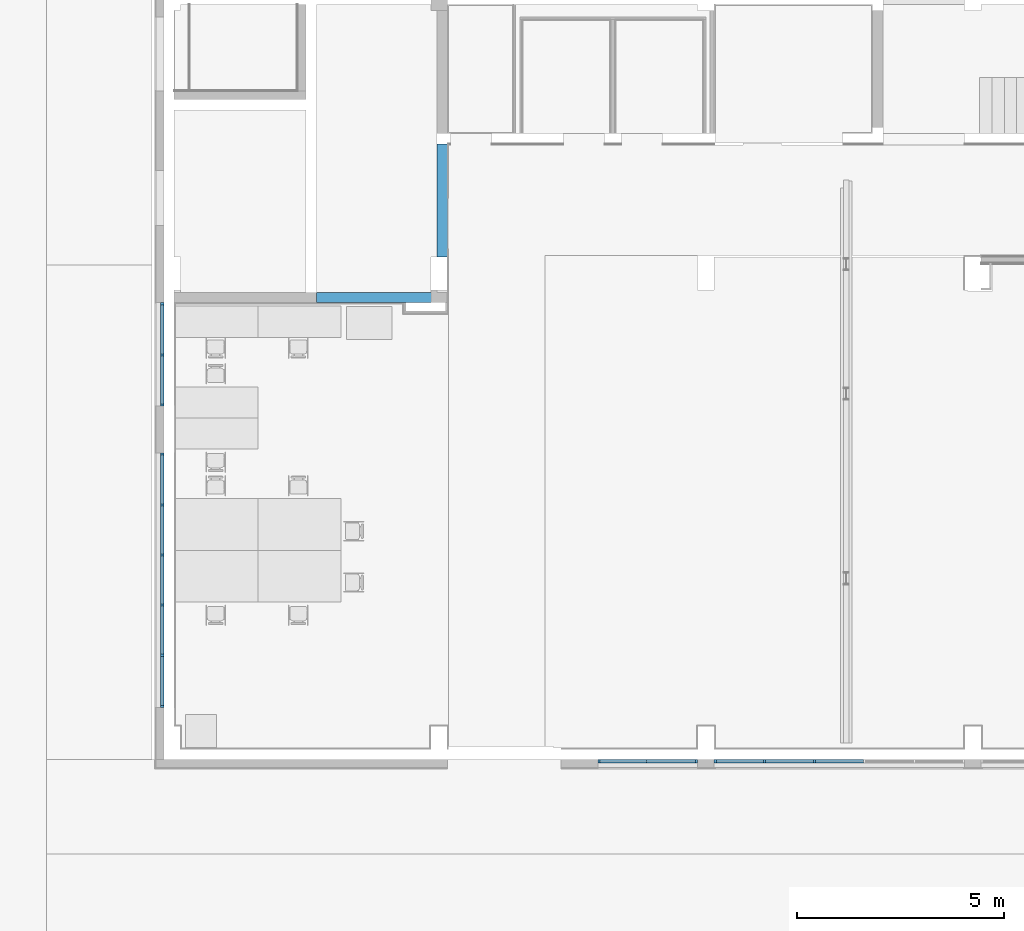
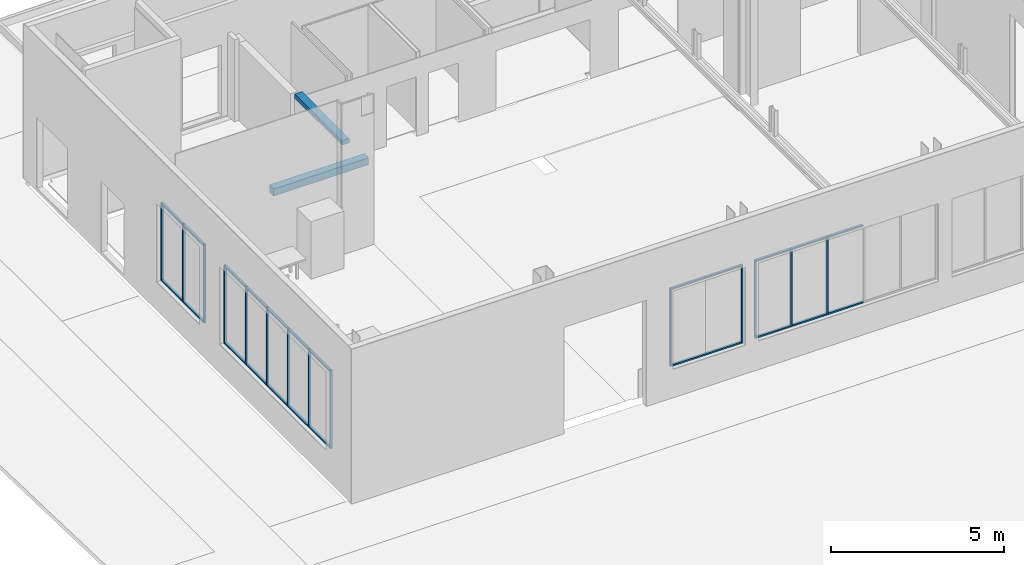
# One storey, part 2 of 27: 38 members, 2 beams, 4 elements without a shape of their own.
"""IFC2X3 building model written with IfcOpenShell, lengths in centimetres."""

from ifc_helpers import new_model, entity, si_unit, converted_unit, derived_unit, direction, frame, frame_2d, origin, origin_2d_with_axis, place, context, subcontext, project, spatial, rectangle, extrude, source, transform, mapped, material, type_object, type_shapes, element, aggregate, save


model = new_model("IFC2X3")

# Units and contexts
model_context = context("Model", 3, precision=0.001, world=origin(), true_north=direction((6.12303176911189e-17, 1.0)))
body_context = subcontext(model_context, "Body", "Model", "MODEL_VIEW")
ifc_project = project(units=[si_unit("LENGTHUNIT", "METRE", prefix="CENTI"), si_unit("AREAUNIT", "SQUARE_METRE"), si_unit("VOLUMEUNIT", "CUBIC_METRE"), converted_unit("PLANEANGLEUNIT", "DEGREE", entity("IfcRatioMeasure", 0.0174532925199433), si_unit("PLANEANGLEUNIT", "RADIAN"), dimensions=[0, 0, 0, 0, 0, 0, 0]), si_unit("MASSUNIT", "GRAM", prefix="KILO"), derived_unit("MASSDENSITYUNIT", [(si_unit("MASSUNIT", "GRAM", prefix="KILO"), 1), (si_unit("LENGTHUNIT", "METRE"), -3)]), derived_unit("MOMENTOFINERTIAUNIT", [(si_unit("LENGTHUNIT", "METRE"), 4)]), si_unit("TIMEUNIT", "SECOND"), si_unit("FREQUENCYUNIT", "HERTZ"), si_unit("THERMODYNAMICTEMPERATUREUNIT", "DEGREE_CELSIUS"), derived_unit("THERMALTRANSMITTANCEUNIT", [(si_unit("MASSUNIT", "GRAM", prefix="KILO"), 1), (si_unit("THERMODYNAMICTEMPERATUREUNIT", "KELVIN"), -1), (si_unit("TIMEUNIT", "SECOND"), -3)]), derived_unit("VOLUMETRICFLOWRATEUNIT", [(si_unit("LENGTHUNIT", "METRE"), 3), (si_unit("TIMEUNIT", "SECOND"), -1)]), si_unit("ELECTRICCURRENTUNIT", "AMPERE"), si_unit("ELECTRICVOLTAGEUNIT", "VOLT"), si_unit("POWERUNIT", "WATT"), si_unit("FORCEUNIT", "NEWTON", prefix="KILO"), si_unit("ILLUMINANCEUNIT", "LUX"), si_unit("LUMINOUSFLUXUNIT", "LUMEN"), si_unit("LUMINOUSINTENSITYUNIT", "CANDELA"), derived_unit("USERDEFINED", [(si_unit("MASSUNIT", "GRAM", prefix="KILO"), -1), (si_unit("LENGTHUNIT", "METRE"), -2), (si_unit("TIMEUNIT", "SECOND"), 3), (si_unit("LUMINOUSFLUXUNIT", "LUMEN"), 1)]), derived_unit("LINEARVELOCITYUNIT", [(si_unit("LENGTHUNIT", "METRE"), 1), (si_unit("TIMEUNIT", "SECOND"), -1)]), si_unit("PRESSUREUNIT", "PASCAL"), derived_unit("USERDEFINED", [(si_unit("LENGTHUNIT", "METRE"), -2), (si_unit("MASSUNIT", "GRAM", prefix="KILO"), 1), (si_unit("TIMEUNIT", "SECOND"), -2)]), derived_unit("LINEARFORCEUNIT", [(si_unit("MASSUNIT", "GRAM", prefix="KILO"), 1), (si_unit("LENGTHUNIT", "METRE"), 1), (si_unit("TIMEUNIT", "SECOND"), -2), (si_unit("LENGTHUNIT", "METRE"), -1)]), derived_unit("PLANARFORCEUNIT", [(si_unit("MASSUNIT", "GRAM", prefix="KILO"), 1), (si_unit("LENGTHUNIT", "METRE"), 1), (si_unit("TIMEUNIT", "SECOND"), -2), (si_unit("LENGTHUNIT", "METRE"), -2)])], contexts=[model_context])

# Site, building, storey
site_placement = place(None, origin())
site = spatial("IfcSite", under=ifc_project, at=site_placement, Name="Default", CompositionType="ELEMENT")
building_placement = place(site_placement, origin())
building = spatial("IfcBuilding", under=site, at=building_placement, CompositionType="ELEMENT")
storey_placement = place(building_placement, origin())
storey = spatial("IfcBuildingStorey", under=building, at=storey_placement, Name="Poziom 0 A +/-0,00", CompositionType="ELEMENT", Elevation=3.38570427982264e-11)

# Beams
ifc_material_1 = material(Name="_Beton C30/37")
beam_type = type_object("IfcBeamType", Name="Beton-belka prostokątna:wieniec 25x25", PredefinedType="BEAM", material=ifc_material_1)
beam_1_placement = place(storey_placement, frame((-2578.26511650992, 1371.62745234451, 265.0)))
element("IfcBeam", 1, at=beam_1_placement, inside=storey, type_object=beam_type, material=ifc_material_1, Name="Beton-belka prostokątna:wieniec 25x25", ObjectType="Beton-belka prostokątna:wieniec 25x25", context=body_context, shape_type="SweptSolid", body=[
    extrude(rectangle(XDim=25.0, YDim=25.0000000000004, at=frame_2d((2.75335310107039e-14, 0.0), x_axis=(1.0, 0.0))), frame((12.4999999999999, 0.0, 12.4999999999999), z_axis=(1.0, 0.0, 0.0), x_axis=(0.0, 0.0, -1.0)), (0.0, 0.0, 1.0), 316.500009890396),
])
beam_2_placement = place(storey_placement, frame((-2261.76511967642, 1470.12745207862, 265.0), z_axis=(0.0, 0.0, 1.0), x_axis=(0.0, 1.0, 0.0)))
element("IfcBeam", 2, at=beam_2_placement, inside=storey, type_object=beam_type, material=ifc_material_1, Name="Beton-belka prostokątna:wieniec 25x25", ObjectType="Beton-belka prostokątna:wieniec 25x25", context=body_context, shape_type="SweptSolid", body=[
    extrude(rectangle(XDim=15.0000000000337, YDim=25.0000000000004, at=frame_2d((-2.70894418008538e-14, 4.33431068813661e-13), x_axis=(1.0, 0.0))), frame((0.0, 0.0, 17.4999999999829), z_axis=(1.0, 0.0, 0.0), x_axis=(0.0, 0.0, -1.0)), (0.0, 0.0, 1.0), 272.999999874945),
])

# Curtain wall, members
curtain_wall_type = type_object("IfcCurtainWallType", PredefinedType="NOTDEFINED")
curtain_wall_1_placement = place(storey_placement, origin())
curtain_wall_1 = element("IfcCurtainWall", 3, at=curtain_wall_1_placement, inside=storey, type_object=curtain_wall_type)
ifc_material_2 = material(Name="Aluminium")
member_type_1 = type_object("IfcMemberType", Name="Prostokątny szpros:50 x 80mm", PredefinedType="MULLION", material=ifc_material_2)
shared_shape_1 = source(origin(), body_context, "Body", "SweptSolid", [
    extrude(rectangle(XDim=8.0, YDim=5.0, at=origin_2d_with_axis()), frame((-2.5, 0.0, -113.500173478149), z_axis=(0.0, 0.0, 1.0), x_axis=(0.0, -1.0, 0.0)), (0.0, 0.0, 1.0), 113.500173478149),
])
type_shapes(member_type_1, [shared_shape_1])
member_1_placement = place(curtain_wall_1_placement, frame((-1485.76267940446, 251.127499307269, 375.0), z_axis=(1.0, 0.0, 0.0), x_axis=(0.0, 0.0, 1.0)))
member_1 = element("IfcMember", 4, at=member_1_placement, type_object=member_type_1, Name="Prostokątny szpros:50 x 80mm", ObjectType="Prostokątny szpros:50 x 80mm", context=body_context, shape_type="MappedRepresentation", body=[
    mapped(shared_shape_1, transform((0.0, 0.0, 0.0), scale=1.0)),
])
member_type_2 = type_object("IfcMemberType", Name="Prostokątny szpros:50 x 80mm", PredefinedType="MULLION", material=ifc_material_2)
shared_shape_2 = source(origin(), body_context, "Body", "SweptSolid", [
    extrude(rectangle(XDim=8.0, YDim=5.0, at=origin_2d_with_axis()), frame((-2.5, 0.0, -113.500173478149), z_axis=(0.0, 0.0, 1.0), x_axis=(0.0, -1.0, 0.0)), (0.0, 0.0, 1.0), 113.500173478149),
])
type_shapes(member_type_2, [shared_shape_2])
member_2_placement = place(curtain_wall_1_placement, frame((-1599.26498890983, 251.127499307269, 100.0), z_axis=(-1.0, 0.0, 0.0), x_axis=(0.0, 0.0, -1.0)))
member_2 = element("IfcMember", 5, at=member_2_placement, type_object=member_type_2, Name="Prostokątny szpros:50 x 80mm", ObjectType="Prostokątny szpros:50 x 80mm", context=body_context, shape_type="MappedRepresentation", body=[
    mapped(shared_shape_2, transform((0.0, 0.0, 0.0), scale=1.0)),
])

# Curtain wall, member
curtain_wall_2_placement = place(storey_placement, origin())
curtain_wall_2 = element("IfcCurtainWall", 6, at=curtain_wall_2_placement, inside=storey, type_object=curtain_wall_type)
member_type_3 = type_object("IfcMemberType", Name="Prostokątny szpros:50 x 80mm", PredefinedType="MULLION", material=ifc_material_2)
shared_shape_3 = source(origin(), body_context, "Body", "SweptSolid", [
    extrude(rectangle(XDim=8.0, YDim=5.0, at=origin_2d_with_axis()), frame((-2.5, 0.0, -275.0), z_axis=(0.0, 0.0, 1.0), x_axis=(0.0, -1.0, 0.0)), (0.0, 0.0, 1.0), 274.999999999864),
])
type_shapes(member_type_3, [shared_shape_3])
member_3_placement = place(curtain_wall_2_placement, frame((-2938.26510381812, 996.127450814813, 100.0), z_axis=(0.0, 0.0, -1.0), x_axis=(0.0, 1.0, 0.0)))
member_3 = element("IfcMember", 7, at=member_3_placement, type_object=member_type_3, Name="Prostokątny szpros:50 x 80mm", ObjectType="Prostokątny szpros:50 x 80mm", context=body_context, shape_type="MappedRepresentation", body=[
    mapped(shared_shape_3, transform((0.0, 0.0, 0.0), scale=1.0)),
])

curtain_wall_3_placement = place(storey_placement, origin())
curtain_wall_3 = element("IfcCurtainWall", 8, at=curtain_wall_3_placement, inside=storey, type_object=curtain_wall_type)
member_4_placement = place(curtain_wall_3_placement, frame((-1644.26510655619, 251.127499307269, 100.0), z_axis=(0.0, 0.0, -1.0), x_axis=(1.0, 0.0, 0.0)))
member_4 = element("IfcMember", 9, at=member_4_placement, type_object=member_type_3, Name="Prostokątny szpros:50 x 80mm", ObjectType="Prostokątny szpros:50 x 80mm", context=body_context, shape_type="MappedRepresentation", body=[
    mapped(shared_shape_3, transform((0.0, 0.0, 0.0), scale=1.0)),
])

curtain_wall_4_placement = place(storey_placement, origin())
curtain_wall_4 = element("IfcCurtainWall", 10, at=curtain_wall_4_placement, inside=storey, type_object=curtain_wall_type)
member_5_placement = place(curtain_wall_4_placement, frame((-2938.26510381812, 1359.12745234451, 100.0), z_axis=(0.0, 0.0, -1.0), x_axis=(0.0, 1.0, 0.0)))
member_5 = element("IfcMember", 11, at=member_5_placement, type_object=member_type_3, Name="Prostokątny szpros:50 x 80mm", ObjectType="Prostokątny szpros:50 x 80mm", context=body_context, shape_type="MappedRepresentation", body=[
    mapped(shared_shape_3, transform((0.0, 0.0, 0.0), scale=1.0)),
])

# Member
member_type_4 = type_object("IfcMemberType", Name="Prostokątny szpros:50 x 80mm", PredefinedType="MULLION", material=ifc_material_2)
shared_shape_4 = source(origin(), body_context, "Body", "SweptSolid", [
    extrude(rectangle(XDim=8.0, YDim=5.0, at=origin_2d_with_axis()), frame((-2.5, 0.0, -275.0), z_axis=(0.0, 0.0, 1.0), x_axis=(0.0, -1.0, 0.0)), (0.0, 0.0, 1.0), 274.999999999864),
])
type_shapes(member_type_4, [shared_shape_4])
member_6_placement = place(curtain_wall_1_placement, frame((-1604.26498890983, 251.127499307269, 375.0), z_axis=(0.0, 0.0, 1.0), x_axis=(-1.0, 0.0, 0.0)))
member_6 = element("IfcMember", 12, at=member_6_placement, type_object=member_type_4, Name="Prostokątny szpros:50 x 80mm", ObjectType="Prostokątny szpros:50 x 80mm", context=body_context, shape_type="MappedRepresentation", body=[
    mapped(shared_shape_4, transform((0.0, 0.0, 0.0), scale=1.0)),
])

member_7_placement = place(curtain_wall_2_placement, frame((-2938.26510381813, 381.127452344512, 375.0), z_axis=(0.0, 0.0, 1.0), x_axis=(0.0, -1.0, 0.0)))
member_7 = element("IfcMember", 13, at=member_7_placement, type_object=member_type_4, Name="Prostokątny szpros:50 x 80mm", ObjectType="Prostokątny szpros:50 x 80mm", context=body_context, shape_type="MappedRepresentation", body=[
    mapped(shared_shape_4, transform((0.0, 0.0, 0.0), scale=1.0)),
])

member_8_placement = place(curtain_wall_3_placement, frame((-1885.7625781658, 251.12749930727, 375.0), z_axis=(0.0, 0.0, 1.0), x_axis=(-1.0, 0.0, 0.0)))
member_8 = element("IfcMember", 14, at=member_8_placement, type_object=member_type_4, Name="Prostokątny szpros:50 x 80mm", ObjectType="Prostokątny szpros:50 x 80mm", context=body_context, shape_type="MappedRepresentation", body=[
    mapped(shared_shape_4, transform((0.0, 0.0, 0.0), scale=1.0)),
])

member_9_placement = place(curtain_wall_4_placement, frame((-2938.26510381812, 1109.62747120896, 375.0), z_axis=(0.0, 0.0, 1.0), x_axis=(0.0, -1.0, 0.0)))
member_9 = element("IfcMember", 15, at=member_9_placement, type_object=member_type_4, Name="Prostokątny szpros:50 x 80mm", ObjectType="Prostokątny szpros:50 x 80mm", context=body_context, shape_type="MappedRepresentation", body=[
    mapped(shared_shape_4, transform((0.0, 0.0, 0.0), scale=1.0)),
])

member_type_5 = type_object("IfcMemberType", Name="Prostokątny szpros:50 x 80mm", PredefinedType="MULLION", material=ifc_material_2)
shared_shape_5 = source(origin(), body_context, "Body", "SweptSolid", [
    extrude(rectangle(XDim=8.0, YDim=5.0, at=origin_2d_with_axis()), frame((-2.5, 0.0, -116.002333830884), z_axis=(0.0, 0.0, 1.0), x_axis=(0.0, -1.0, 0.0)), (0.0, 0.0, 1.0), 116.002333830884),
])
type_shapes(member_type_5, [shared_shape_5])
member_10_placement = place(curtain_wall_1_placement, frame((-1480.76267940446, 251.127499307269, 100.0), z_axis=(-1.0, 0.0, 0.0), x_axis=(0.0, 0.0, -1.0)))
member_10 = element("IfcMember", 16, at=member_10_placement, type_object=member_type_5, Name="Prostokątny szpros:50 x 80mm", ObjectType="Prostokątny szpros:50 x 80mm", context=body_context, shape_type="MappedRepresentation", body=[
    mapped(shared_shape_5, transform((0.0, 0.0, 0.0), scale=1.0)),
])

member_11_placement = place(curtain_wall_1_placement, frame((-1359.76267937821, 251.127499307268, 100.0), z_axis=(-1.0, 0.0, 0.0), x_axis=(0.0, 0.0, -1.0)))
member_11 = element("IfcMember", 17, at=member_11_placement, type_object=member_type_5, Name="Prostokątny szpros:50 x 80mm", ObjectType="Prostokątny szpros:50 x 80mm", context=body_context, shape_type="MappedRepresentation", body=[
    mapped(shared_shape_5, transform((0.0, 0.0, 0.0), scale=1.0)),
])

member_12_placement = place(curtain_wall_2_placement, frame((-2938.26510381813, 509.627625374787, 100.0), z_axis=(0.0, -1.0, 0.0), x_axis=(0.0, 0.0, -1.0)))
member_12 = element("IfcMember", 18, at=member_12_placement, type_object=member_type_5, Name="Prostokątny szpros:50 x 80mm", ObjectType="Prostokątny szpros:50 x 80mm", context=body_context, shape_type="MappedRepresentation", body=[
    mapped(shared_shape_5, transform((0.0, 0.0, 0.0), scale=1.0)),
])

member_13_placement = place(curtain_wall_2_placement, frame((-2938.26510381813, 630.627625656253, 100.0), z_axis=(0.0, -1.0, 0.0), x_axis=(0.0, 0.0, -1.0)))
member_13 = element("IfcMember", 19, at=member_13_placement, type_object=member_type_5, Name="Prostokątny szpros:50 x 80mm", ObjectType="Prostokątny szpros:50 x 80mm", context=body_context, shape_type="MappedRepresentation", body=[
    mapped(shared_shape_5, transform((0.0, 0.0, 0.0), scale=1.0)),
])

member_14_placement = place(curtain_wall_2_placement, frame((-2938.26510381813, 751.627625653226, 100.0), z_axis=(0.0, -1.0, 0.0), x_axis=(0.0, 0.0, -1.0)))
member_14 = element("IfcMember", 20, at=member_14_placement, type_object=member_type_5, Name="Prostokątny szpros:50 x 80mm", ObjectType="Prostokątny szpros:50 x 80mm", context=body_context, shape_type="MappedRepresentation", body=[
    mapped(shared_shape_5, transform((0.0, 0.0, 0.0), scale=1.0)),
])

member_15_placement = place(curtain_wall_4_placement, frame((-2938.26510381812, 1114.62747120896, 100.0), z_axis=(0.0, -1.0, 0.0), x_axis=(0.0, 0.0, -1.0)))
member_15 = element("IfcMember", 21, at=member_15_placement, type_object=member_type_5, Name="Prostokątny szpros:50 x 80mm", ObjectType="Prostokątny szpros:50 x 80mm", context=body_context, shape_type="MappedRepresentation", body=[
    mapped(shared_shape_5, transform((0.0, 0.0, 0.0), scale=1.0)),
])

member_type_6 = type_object("IfcMemberType", Name="Prostokątny szpros:50 x 80mm", PredefinedType="MULLION", material=ifc_material_2)
shared_shape_6 = source(origin(), body_context, "Body", "SweptSolid", [
    extrude(rectangle(XDim=8.0, YDim=5.0, at=origin_2d_with_axis()), frame((0.0, 0.0, -275.0), z_axis=(0.0, 0.0, 1.0), x_axis=(0.0, -1.0, 0.0)), (0.0, 0.0, 1.0), 274.999999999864),
])
type_shapes(member_type_6, [shared_shape_6])
member_16_placement = place(curtain_wall_1_placement, frame((-1483.26267940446, 251.127499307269, 100.0), z_axis=(0.0, 0.0, -1.0), x_axis=(1.0, 0.0, 0.0)))
member_16 = element("IfcMember", 22, at=member_16_placement, type_object=member_type_6, Name="Prostokątny szpros:50 x 80mm", ObjectType="Prostokątny szpros:50 x 80mm", context=body_context, shape_type="MappedRepresentation", body=[
    mapped(shared_shape_6, transform((0.0, 0.0, 0.0), scale=1.0)),
])

member_17_placement = place(curtain_wall_1_placement, frame((-1362.26267937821, 251.127499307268, 100.0), z_axis=(0.0, 0.0, -1.0), x_axis=(1.0, 0.0, 0.0)))
member_17 = element("IfcMember", 23, at=member_17_placement, type_object=member_type_6, Name="Prostokątny szpros:50 x 80mm", ObjectType="Prostokątny szpros:50 x 80mm", context=body_context, shape_type="MappedRepresentation", body=[
    mapped(shared_shape_6, transform((0.0, 0.0, 0.0), scale=1.0)),
])

member_18_placement = place(curtain_wall_2_placement, frame((-2938.26510381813, 507.127625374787, 100.0), z_axis=(0.0, 0.0, -1.0), x_axis=(0.0, 1.0, 0.0)))
member_18 = element("IfcMember", 24, at=member_18_placement, type_object=member_type_6, Name="Prostokątny szpros:50 x 80mm", ObjectType="Prostokątny szpros:50 x 80mm", context=body_context, shape_type="MappedRepresentation", body=[
    mapped(shared_shape_6, transform((0.0, 0.0, 0.0), scale=1.0)),
])

member_19_placement = place(curtain_wall_2_placement, frame((-2938.26510381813, 628.127625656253, 100.0), z_axis=(0.0, 0.0, -1.0), x_axis=(0.0, 1.0, 0.0)))
member_19 = element("IfcMember", 25, at=member_19_placement, type_object=member_type_6, Name="Prostokątny szpros:50 x 80mm", ObjectType="Prostokątny szpros:50 x 80mm", context=body_context, shape_type="MappedRepresentation", body=[
    mapped(shared_shape_6, transform((0.0, 0.0, 0.0), scale=1.0)),
])

member_20_placement = place(curtain_wall_2_placement, frame((-2938.26510381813, 749.127625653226, 100.0), z_axis=(0.0, 0.0, -1.0), x_axis=(0.0, 1.0, 0.0)))
member_20 = element("IfcMember", 26, at=member_20_placement, type_object=member_type_6, Name="Prostokątny szpros:50 x 80mm", ObjectType="Prostokątny szpros:50 x 80mm", context=body_context, shape_type="MappedRepresentation", body=[
    mapped(shared_shape_6, transform((0.0, 0.0, 0.0), scale=1.0)),
])

member_21_placement = place(curtain_wall_2_placement, frame((-2938.26510381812, 870.127625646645, 100.0), z_axis=(0.0, 0.0, -1.0), x_axis=(0.0, 1.0, 0.0)))
member_21 = element("IfcMember", 27, at=member_21_placement, type_object=member_type_6, Name="Prostokątny szpros:50 x 80mm", ObjectType="Prostokątny szpros:50 x 80mm", context=body_context, shape_type="MappedRepresentation", body=[
    mapped(shared_shape_6, transform((0.0, 0.0, 0.0), scale=1.0)),
])

member_22_placement = place(curtain_wall_4_placement, frame((-2938.26510381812, 1233.12762565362, 100.0), z_axis=(0.0, 0.0, -1.0), x_axis=(0.0, 1.0, 0.0)))
member_22 = element("IfcMember", 28, at=member_22_placement, type_object=member_type_6, Name="Prostokątny szpros:50 x 80mm", ObjectType="Prostokątny szpros:50 x 80mm", context=body_context, shape_type="MappedRepresentation", body=[
    mapped(shared_shape_6, transform((0.0, 0.0, 0.0), scale=1.0)),
])

member_type_7 = type_object("IfcMemberType", Name="Prostokątny szpros:50 x 80mm", PredefinedType="MULLION", material=ifc_material_2)
shared_shape_7 = source(origin(), body_context, "Body", "SweptSolid", [
    extrude(rectangle(XDim=8.0, YDim=5.0, at=origin_2d_with_axis()), frame((-2.5, 0.0, -116.002333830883), z_axis=(0.0, 0.0, 1.0), x_axis=(0.0, -1.0, 0.0)), (0.0, 0.0, 1.0), 116.002333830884),
])
type_shapes(member_type_7, [shared_shape_7])
member_23_placement = place(curtain_wall_1_placement, frame((-1364.76267937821, 251.127499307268, 375.0), z_axis=(1.0, 0.0, 0.0), x_axis=(0.0, 0.0, 1.0)))
member_23 = element("IfcMember", 29, at=member_23_placement, type_object=member_type_7, Name="Prostokątny szpros:50 x 80mm", ObjectType="Prostokątny szpros:50 x 80mm", context=body_context, shape_type="MappedRepresentation", body=[
    mapped(shared_shape_7, transform((0.0, 0.0, 0.0), scale=1.0)),
])

member_24_placement = place(curtain_wall_1_placement, frame((-1243.76267511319, 251.127499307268, 375.0), z_axis=(1.0, 0.0, 0.0), x_axis=(0.0, 0.0, 1.0)))
member_24 = element("IfcMember", 30, at=member_24_placement, type_object=member_type_7, Name="Prostokątny szpros:50 x 80mm", ObjectType="Prostokątny szpros:50 x 80mm", context=body_context, shape_type="MappedRepresentation", body=[
    mapped(shared_shape_7, transform((0.0, 0.0, 0.0), scale=1.0)),
])

aggregate(curtain_wall_1, [member_2, member_6, member_1, member_10, member_16, member_23, member_11, member_17, member_24])

member_25_placement = place(curtain_wall_2_placement, frame((-2938.26510381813, 625.627625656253, 375.0), z_axis=(0.0, 1.0, 0.0), x_axis=(0.0, 0.0, 1.0)))
member_25 = element("IfcMember", 31, at=member_25_placement, type_object=member_type_7, Name="Prostokątny szpros:50 x 80mm", ObjectType="Prostokątny szpros:50 x 80mm", context=body_context, shape_type="MappedRepresentation", body=[
    mapped(shared_shape_7, transform((0.0, 0.0, 0.0), scale=1.0)),
])

member_26_placement = place(curtain_wall_2_placement, frame((-2938.26510381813, 746.627625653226, 375.0), z_axis=(0.0, 1.0, 0.0), x_axis=(0.0, 0.0, 1.0)))
member_26 = element("IfcMember", 32, at=member_26_placement, type_object=member_type_7, Name="Prostokątny szpros:50 x 80mm", ObjectType="Prostokątny szpros:50 x 80mm", context=body_context, shape_type="MappedRepresentation", body=[
    mapped(shared_shape_7, transform((0.0, 0.0, 0.0), scale=1.0)),
])

member_27_placement = place(curtain_wall_2_placement, frame((-2938.26510381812, 867.627625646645, 375.0), z_axis=(0.0, 1.0, 0.0), x_axis=(0.0, 0.0, 1.0)))
member_27 = element("IfcMember", 33, at=member_27_placement, type_object=member_type_7, Name="Prostokątny szpros:50 x 80mm", ObjectType="Prostokątny szpros:50 x 80mm", context=body_context, shape_type="MappedRepresentation", body=[
    mapped(shared_shape_7, transform((0.0, 0.0, 0.0), scale=1.0)),
])

member_28_placement = place(curtain_wall_4_placement, frame((-2938.26510381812, 1230.62762565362, 375.0), z_axis=(0.0, 1.0, 0.0), x_axis=(0.0, 0.0, 1.0)))
member_28 = element("IfcMember", 34, at=member_28_placement, type_object=member_type_7, Name="Prostokątny szpros:50 x 80mm", ObjectType="Prostokątny szpros:50 x 80mm", context=body_context, shape_type="MappedRepresentation", body=[
    mapped(shared_shape_7, transform((0.0, 0.0, 0.0), scale=1.0)),
])

member_type_8 = type_object("IfcMemberType", Name="Prostokątny szpros:50 x 80mm", PredefinedType="MULLION", material=ifc_material_2)
shared_shape_8 = source(origin(), body_context, "Body", "SweptSolid", [
    extrude(rectangle(XDim=8.0, YDim=5.0, at=origin_2d_with_axis()), frame((-2.5, 0.0, -118.4999790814), z_axis=(0.0, 0.0, 1.0), x_axis=(0.0, -1.0, 0.0)), (0.0, 0.0, 1.0), 118.499979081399),
])
type_shapes(member_type_8, [shared_shape_8])
member_29_placement = place(curtain_wall_2_placement, frame((-2938.26510381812, 991.127450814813, 375.0), z_axis=(0.0, 1.0, 0.0), x_axis=(0.0, 0.0, 1.0)))
member_29 = element("IfcMember", 35, at=member_29_placement, type_object=member_type_8, Name="Prostokątny szpros:50 x 80mm", ObjectType="Prostokątny szpros:50 x 80mm", context=body_context, shape_type="MappedRepresentation", body=[
    mapped(shared_shape_8, transform((0.0, 0.0, 0.0), scale=1.0)),
])

member_30_placement = place(curtain_wall_2_placement, frame((-2938.26510381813, 504.627625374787, 375.0), z_axis=(0.0, 1.0, 0.0), x_axis=(0.0, 0.0, 1.0)))
member_30 = element("IfcMember", 36, at=member_30_placement, type_object=member_type_8, Name="Prostokątny szpros:50 x 80mm", ObjectType="Prostokątny szpros:50 x 80mm", context=body_context, shape_type="MappedRepresentation", body=[
    mapped(shared_shape_8, transform((0.0, 0.0, 0.0), scale=1.0)),
])

member_31_placement = place(curtain_wall_4_placement, frame((-2938.26510381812, 1354.12745234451, 375.0), z_axis=(0.0, 1.0, 0.0), x_axis=(0.0, 0.0, 1.0)))
member_31 = element("IfcMember", 37, at=member_31_placement, type_object=member_type_8, Name="Prostokątny szpros:50 x 80mm", ObjectType="Prostokątny szpros:50 x 80mm", context=body_context, shape_type="MappedRepresentation", body=[
    mapped(shared_shape_8, transform((0.0, 0.0, 0.0), scale=1.0)),
])

member_type_9 = type_object("IfcMemberType", Name="Prostokątny szpros:50 x 80mm", PredefinedType="MULLION", material=ifc_material_2)
shared_shape_9 = source(origin(), body_context, "Body", "SweptSolid", [
    extrude(rectangle(XDim=8.0, YDim=5.0, at=origin_2d_with_axis()), frame((-2.5, 0.0, -118.4999790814), z_axis=(0.0, 0.0, 1.0), x_axis=(0.0, -1.0, 0.0)), (0.0, 0.0, 1.0), 118.499979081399),
])
type_shapes(member_type_9, [shared_shape_9])
member_32_placement = place(curtain_wall_2_placement, frame((-2938.26510381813, 386.127452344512, 100.0), z_axis=(0.0, -1.0, 0.0), x_axis=(0.0, 0.0, -1.0)))
member_32 = element("IfcMember", 38, at=member_32_placement, type_object=member_type_9, Name="Prostokątny szpros:50 x 80mm", ObjectType="Prostokątny szpros:50 x 80mm", context=body_context, shape_type="MappedRepresentation", body=[
    mapped(shared_shape_9, transform((0.0, 0.0, 0.0), scale=1.0)),
])

member_33_placement = place(curtain_wall_2_placement, frame((-2938.26510381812, 872.627625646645, 100.0), z_axis=(0.0, -1.0, 0.0), x_axis=(0.0, 0.0, -1.0)))
member_33 = element("IfcMember", 39, at=member_33_placement, type_object=member_type_9, Name="Prostokątny szpros:50 x 80mm", ObjectType="Prostokątny szpros:50 x 80mm", context=body_context, shape_type="MappedRepresentation", body=[
    mapped(shared_shape_9, transform((0.0, 0.0, 0.0), scale=1.0)),
])

aggregate(curtain_wall_2, [member_29, member_32, member_3, member_7, member_30, member_12, member_18, member_25, member_13, member_19, member_26, member_14, member_20, member_27, member_33, member_21])

member_34_placement = place(curtain_wall_4_placement, frame((-2938.26510381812, 1235.62762565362, 100.0), z_axis=(0.0, -1.0, 0.0), x_axis=(0.0, 0.0, -1.0)))
member_34 = element("IfcMember", 40, at=member_34_placement, type_object=member_type_9, Name="Prostokątny szpros:50 x 80mm", ObjectType="Prostokątny szpros:50 x 80mm", context=body_context, shape_type="MappedRepresentation", body=[
    mapped(shared_shape_9, transform((0.0, 0.0, 0.0), scale=1.0)),
])

aggregate(curtain_wall_4, [member_31, member_15, member_5, member_9, member_28, member_34, member_22])

member_type_10 = type_object("IfcMemberType", Name="Prostokątny szpros:50 x 80mm", PredefinedType="MULLION", material=ifc_material_2)
shared_shape_10 = source(origin(), body_context, "Body", "SweptSolid", [
    extrude(rectangle(XDim=8.0, YDim=5.0, at=origin_2d_with_axis()), frame((-2.5, 0.0, -118.500000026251), z_axis=(0.0, 0.0, 1.0), x_axis=(0.0, -1.0, 0.0)), (0.0, 0.0, 1.0), 118.500000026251),
])
type_shapes(member_type_10, [shared_shape_10])
member_35_placement = place(curtain_wall_3_placement, frame((-1649.26510655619, 251.127499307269, 375.0), z_axis=(1.0, 0.0, 0.0), x_axis=(0.0, 0.0, 1.0)))
member_35 = element("IfcMember", 41, at=member_35_placement, type_object=member_type_10, Name="Prostokątny szpros:50 x 80mm", ObjectType="Prostokątny szpros:50 x 80mm", context=body_context, shape_type="MappedRepresentation", body=[
    mapped(shared_shape_10, transform((0.0, 0.0, 0.0), scale=1.0)),
])

member_type_11 = type_object("IfcMemberType", Name="Prostokątny szpros:50 x 80mm", PredefinedType="MULLION", material=ifc_material_2)
shared_shape_11 = source(origin(), body_context, "Body", "SweptSolid", [
    extrude(rectangle(XDim=8.0, YDim=5.0, at=origin_2d_with_axis()), frame((-2.5, 0.0, -113.0), z_axis=(0.0, 0.0, 1.0), x_axis=(0.0, -1.0, 0.0)), (0.0, 0.0, 1.0), 113.0),
])
type_shapes(member_type_11, [shared_shape_11])
member_36_placement = place(curtain_wall_3_placement, frame((-1880.7625781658, 251.12749930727, 100.0), z_axis=(-1.0, 0.0, 0.0), x_axis=(0.0, 0.0, -1.0)))
member_36 = element("IfcMember", 42, at=member_36_placement, type_object=member_type_11, Name="Prostokątny szpros:50 x 80mm", ObjectType="Prostokątny szpros:50 x 80mm", context=body_context, shape_type="MappedRepresentation", body=[
    mapped(shared_shape_11, transform((0.0, 0.0, 0.0), scale=1.0)),
])

member_type_12 = type_object("IfcMemberType", Name="Prostokątny szpros:50 x 80mm", PredefinedType="MULLION", material=ifc_material_2)
shared_shape_12 = source(origin(), body_context, "Body", "SweptSolid", [
    extrude(rectangle(XDim=8.0, YDim=5.0, at=origin_2d_with_axis()), frame((-2.5, 0.0, -113.0), z_axis=(0.0, 0.0, 1.0), x_axis=(0.0, -1.0, 0.0)), (0.0, 0.0, 1.0), 113.0),
])
type_shapes(member_type_12, [shared_shape_12])
member_37_placement = place(curtain_wall_3_placement, frame((-1767.7625781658, 251.127499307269, 375.0), z_axis=(1.0, 0.0, 0.0), x_axis=(0.0, 0.0, 1.0)))
member_37 = element("IfcMember", 43, at=member_37_placement, type_object=member_type_12, Name="Prostokątny szpros:50 x 80mm", ObjectType="Prostokątny szpros:50 x 80mm", context=body_context, shape_type="MappedRepresentation", body=[
    mapped(shared_shape_12, transform((0.0, 0.0, 0.0), scale=1.0)),
])

member_type_13 = type_object("IfcMemberType", Name="Prostokątny szpros:50 x 80mm", PredefinedType="MULLION", material=ifc_material_2)
shared_shape_13 = source(origin(), body_context, "Body", "SweptSolid", [
    extrude(rectangle(XDim=8.0, YDim=5.0, at=origin_2d_with_axis()), frame((-2.5, 0.0, -118.500000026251), z_axis=(0.0, 0.0, 1.0), x_axis=(0.0, -1.0, 0.0)), (0.0, 0.0, 1.0), 118.500000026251),
])
type_shapes(member_type_13, [shared_shape_13])
member_38_placement = place(curtain_wall_3_placement, frame((-1767.7625781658, 251.127499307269, 100.0), z_axis=(-1.0, 0.0, 0.0), x_axis=(0.0, 0.0, -1.0)))
member_38 = element("IfcMember", 44, at=member_38_placement, type_object=member_type_13, Name="Prostokątny szpros:50 x 80mm", ObjectType="Prostokątny szpros:50 x 80mm", context=body_context, shape_type="MappedRepresentation", body=[
    mapped(shared_shape_13, transform((0.0, 0.0, 0.0), scale=1.0)),
])

aggregate(curtain_wall_3, [member_35, member_36, member_4, member_8, member_37, member_38])

save(model, "model.ifc")
